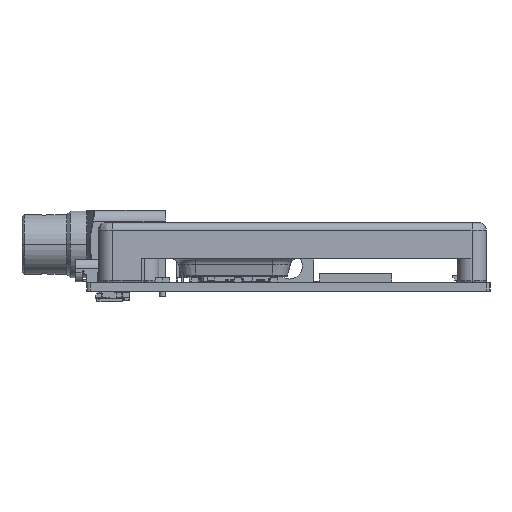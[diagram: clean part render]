
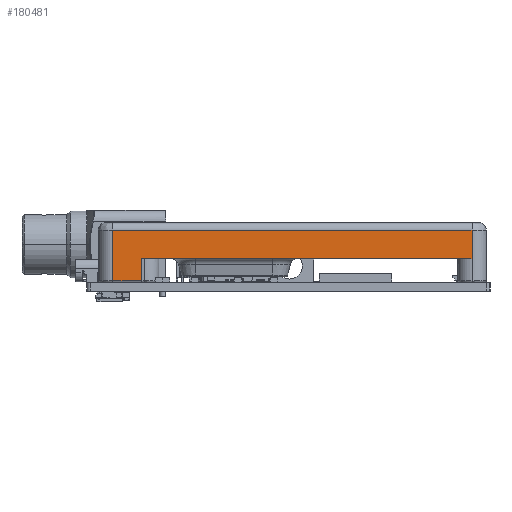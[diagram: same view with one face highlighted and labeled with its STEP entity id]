
A CAD part, left-side view. The second image highlights one B-rep face of the part: STEP entity #180481.
In plain terms, the highlighted planar face has unit normal (-1, 0, 0).
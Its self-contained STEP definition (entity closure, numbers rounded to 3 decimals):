
#178489=DIRECTION('',(0.,1.,0.));
#178490=VECTOR('',#178489,49.894);
#178491=CARTESIAN_POINT('',(-40.5,-24.172,7.885));
#178492=LINE('',#178491,#178490);
#178626=DIRECTION('',(0.,0.,-1.));
#178627=VECTOR('',#178626,7.06);
#178628=CARTESIAN_POINT('',(-40.5,25.722,
7.885));
#178629=LINE('',#178628,#178627);
#178663=DIRECTION('',(0.,-1.,0.));
#178664=VECTOR('',#178663,4.);
#178665=CARTESIAN_POINT('',(-40.5,25.722,0.825));
#178666=LINE('',#178665,#178664);
#178672=DIRECTION('',(0.,0.,1.));
#178673=VECTOR('',#178672,3.06);
#178674=CARTESIAN_POINT('',(-40.5,21.722,0.825));
#178675=LINE('',#178674,#178673);
#178680=DIRECTION('',(0.,1.,0.));
#178681=VECTOR('',#178680,45.894);
#178682=CARTESIAN_POINT('',(-40.5,-24.172,3.885));
#178683=LINE('',#178682,#178681);
#178688=DIRECTION('',(0.,0.,1.));
#178689=VECTOR('',#178688,4.);
#178690=CARTESIAN_POINT('',(-40.5,-24.172,3.885));
#178691=LINE('',#178690,#178689);
#179839=CARTESIAN_POINT('',(-40.5,21.722,3.885));
#179840=VERTEX_POINT('',#179839);
#179841=CARTESIAN_POINT('',(-40.5,-24.172,3.885));
#179842=VERTEX_POINT('',#179841);
#179957=CARTESIAN_POINT('',(-40.5,25.722,7.885));
#179958=VERTEX_POINT('',#179957);
#179959=CARTESIAN_POINT('',(-40.5,-24.172,7.885));
#179960=VERTEX_POINT('',#179959);
#179969=CARTESIAN_POINT('',(-40.5,25.722,0.825));
#179970=CARTESIAN_POINT('',(-40.5,21.722,0.825));
#179971=VERTEX_POINT('',#179969);
#179972=VERTEX_POINT('',#179970);
#180466=CARTESIAN_POINT('',(-40.5,27.722,0.625));
#180467=DIRECTION('',(-1.,0.,0.));
#180468=DIRECTION('',(0.,-1.,0.));
#180469=AXIS2_PLACEMENT_3D('',#180466,#180467,#180468);
#180470=PLANE('',#180469);
#180471=ORIENTED_EDGE('',*,*,#180445,.F.);
#180472=ORIENTED_EDGE('',*,*,#180384,.F.);
#180473=ORIENTED_EDGE('',*,*,#180161,.F.);
#180475=ORIENTED_EDGE('',*,*,#180474,.F.);
#180477=ORIENTED_EDGE('',*,*,#180476,.T.);
#180478=ORIENTED_EDGE('',*,*,#180456,.F.);
#180479=EDGE_LOOP('',(#180471,#180472,#180473,#180475,#180477,#180478));
#180480=FACE_OUTER_BOUND('',#180479,.F.);
#180161=EDGE_CURVE('',#179960,#179958,#178492,.T.);
#180384=EDGE_CURVE('',#179958,#179971,#178629,.T.);
#180445=EDGE_CURVE('',#179971,#179972,#178666,.T.);
#180456=EDGE_CURVE('',#179972,#179840,#178675,.T.);
#180474=EDGE_CURVE('',#179842,#179960,#178691,.T.);
#180476=EDGE_CURVE('',#179842,#179840,#178683,.T.);
#180481=ADVANCED_FACE('',(#180480),#180470,.T.);
